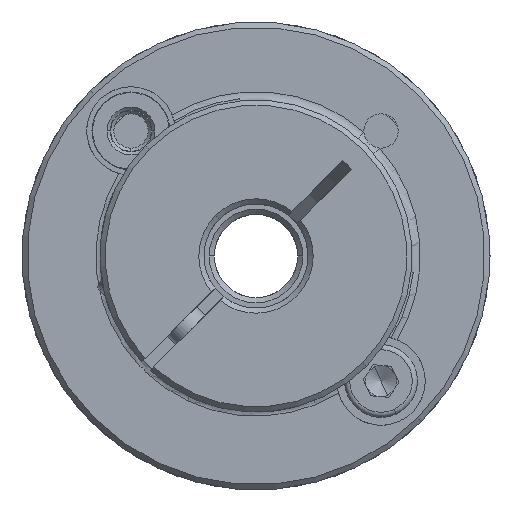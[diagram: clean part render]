
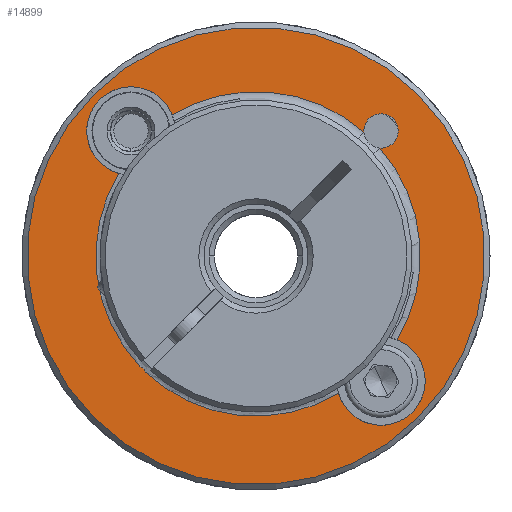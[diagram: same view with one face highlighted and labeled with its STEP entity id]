
A CAD part, front view. The second image highlights one B-rep face of the part: STEP entity #14899.
In plain terms, the highlighted planar face has unit normal (0, -1, 0).
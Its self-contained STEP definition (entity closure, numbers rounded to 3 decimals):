
#112 = CIRCLE ( 'NONE', #10133, 22. ) ;
#169 = EDGE_LOOP ( 'NONE', ( #14059, #2437 ) ) ;
#212 = DIRECTION ( 'NONE',  ( 0., 1., 0. ) ) ;
#235 = VERTEX_POINT ( 'NONE', #9480 ) ;
#535 = AXIS2_PLACEMENT_3D ( 'NONE', #6618, #7748, #8866 ) ;
#650 = CIRCLE ( 'NONE', #4302, 1.65 ) ;
#809 = ORIENTED_EDGE ( 'NONE', *, *, #14279, .T. ) ;
#846 = CARTESIAN_POINT ( 'NONE',  ( -8.911, -12.641, 45. ) ) ;
#885 = ORIENTED_EDGE ( 'NONE', *, *, #1047, .T. ) ;
#943 = AXIS2_PLACEMENT_3D ( 'NONE', #4157, #2841, #3952 ) ;
#1047 = EDGE_CURVE ( 'NONE', #14922, #12846, #5897, .T. ) ;
#1073 = CARTESIAN_POINT ( 'NONE',  ( -8.911, -12.641, 45. ) ) ;
#1151 = CIRCLE ( 'NONE', #7329, 22. ) ;
#1315 = VERTEX_POINT ( 'NONE', #10970 ) ;
#1493 = CIRCLE ( 'NONE', #943, 15.8 ) ;
#1584 = CARTESIAN_POINT ( 'NONE',  ( 6.646, -12.641, 29.444 ) ) ;
#1696 = EDGE_CURVE ( 'NONE', #5183, #5309, #650, .T. ) ;
#1833 = DIRECTION ( 'NONE',  ( -0.707, 0., 0.707 ) ) ;
#1868 = VERTEX_POINT ( 'NONE', #2589 ) ;
#2110 = VERTEX_POINT ( 'NONE', #10477 ) ;
#2239 = EDGE_CURVE ( 'NONE', #9493, #7759, #112, .T. ) ;
#2271 = AXIS2_PLACEMENT_3D ( 'NONE', #14435, #6189, #7568 ) ;
#2296 = AXIS2_PLACEMENT_3D ( 'NONE', #8315, #212, #2542 ) ;
#2437 = ORIENTED_EDGE ( 'NONE', *, *, #14147, .T. ) ;
#2542 = DIRECTION ( 'NONE',  ( -0.707, 0., 0.707 ) ) ;
#2589 = CARTESIAN_POINT ( 'NONE',  ( -20.068, -12.641, 34.385 ) ) ;
#2647 = ORIENTED_EDGE ( 'NONE', *, *, #9417, .T. ) ;
#2800 = AXIS2_PLACEMENT_3D ( 'NONE', #3912, #13254, #14481 ) ;
#2811 = CARTESIAN_POINT ( 'NONE',  ( -0.974, -12.641, 31.803 ) ) ;
#2841 = DIRECTION ( 'NONE',  ( 0., 1., 0. ) ) ;
#2988 = CARTESIAN_POINT ( 'NONE',  ( 3.11, -12.641, 32.979 ) ) ;
#3011 = EDGE_CURVE ( 'NONE', #1868, #3919, #8377, .T. ) ;
#3862 = CIRCLE ( 'NONE', #2296, 4.25 ) ;
#3912 = CARTESIAN_POINT ( 'NONE',  ( 3.11, -12.641, 32.979 ) ) ;
#3919 = VERTEX_POINT ( 'NONE', #9709 ) ;
#3952 = DIRECTION ( 'NONE',  ( -0.707, 0., 0.707 ) ) ;
#4133 = CARTESIAN_POINT ( 'NONE',  ( -8.911, -12.641, 45. ) ) ;
#4157 = CARTESIAN_POINT ( 'NONE',  ( -8.911, -12.641, 45. ) ) ;
#4175 = DIRECTION ( 'NONE',  ( 0., -1., 0. ) ) ;
#4302 = AXIS2_PLACEMENT_3D ( 'NONE', #4752, #4868, #6026 ) ;
#4571 = AXIS2_PLACEMENT_3D ( 'NONE', #1073, #13688, #7990 ) ;
#4585 = ORIENTED_EDGE ( 'NONE', *, *, #4937, .T. ) ;
#4752 = CARTESIAN_POINT ( 'NONE',  ( 3.11, -12.641, 57.021 ) ) ;
#4807 = ORIENTED_EDGE ( 'NONE', *, *, #3011, .T. ) ;
#4868 = DIRECTION ( 'NONE',  ( 0., 1., 0. ) ) ;
#4937 = EDGE_CURVE ( 'NONE', #1315, #5183, #7259, .T. ) ;
#5183 = VERTEX_POINT ( 'NONE', #8898 ) ;
#5251 = CIRCLE ( 'NONE', #10872, 15.8 ) ;
#5309 = VERTEX_POINT ( 'NONE', #14805 ) ;
#5551 = ORIENTED_EDGE ( 'NONE', *, *, #1696, .T. ) ;
#5615 = EDGE_CURVE ( 'NONE', #2110, #1315, #14118, .T. ) ;
#5811 = EDGE_CURVE ( 'NONE', #5309, #12378, #5251, .T. ) ;
#5897 = CIRCLE ( 'NONE', #4571, 15.4 ) ;
#6002 = FACE_OUTER_BOUND ( 'NONE', #169, .T. ) ;
#6026 = DIRECTION ( 'NONE',  ( -0.707, 0., 0.707 ) ) ;
#6143 = B_SPLINE_CURVE_WITH_KNOTS ( 'NONE', 3,
 ( #12869, #14022, #7059, #7014 ),
 .UNSPECIFIED., .F., .F.,
 ( 4, 4 ),
 ( 0., 1. ),
 .UNSPECIFIED. ) ;
#6169 = ORIENTED_EDGE ( 'NONE', *, *, #7361, .T. ) ;
#6189 = DIRECTION ( 'NONE',  ( 0., 1., 0. ) ) ;
#6316 = CARTESIAN_POINT ( 'NONE',  ( -23.937, -12.641, 60.026 ) ) ;
#6354 = DIRECTION ( 'NONE',  ( -0.707, 0., 0.707 ) ) ;
#6618 = CARTESIAN_POINT ( 'NONE',  ( 3.11, -12.641, 57.021 ) ) ;
#6731 = DIRECTION ( 'NONE',  ( 0., 1., 0. ) ) ;
#7014 = CARTESIAN_POINT ( 'NONE',  ( -20.068, -12.641, 34.385 ) ) ;
#7059 = CARTESIAN_POINT ( 'NONE',  ( -19.844, -12.641, 34.248 ) ) ;
#7259 = CIRCLE ( 'NONE', #12005, 1.65 ) ;
#7329 = AXIS2_PLACEMENT_3D ( 'NONE', #846, #4175, #1833 ) ;
#7361 = EDGE_CURVE ( 'NONE', #12846, #1868, #6143, .T. ) ;
#7512 = PLANE ( 'NONE',  #14106 ) ;
#7568 = DIRECTION ( 'NONE',  ( -0.707, 0., 0.707 ) ) ;
#7748 = DIRECTION ( 'NONE',  ( 0., 1., 0. ) ) ;
#7759 = VERTEX_POINT ( 'NONE', #11755 ) ;
#7965 = DIRECTION ( 'NONE',  ( -0.707, 0., 0.707 ) ) ;
#7990 = DIRECTION ( 'NONE',  ( -0.707, 0., 0.707 ) ) ;
#8170 = CARTESIAN_POINT ( 'NONE',  ( 4.674, -12.641, 36.931 ) ) ;
#8281 = ORIENTED_EDGE ( 'NONE', *, *, #5811, .T. ) ;
#8315 = CARTESIAN_POINT ( 'NONE',  ( -20.932, -12.641, 57.021 ) ) ;
#8333 = CARTESIAN_POINT ( 'NONE',  ( -16.98, -12.641, 58.584 ) ) ;
#8335 = DIRECTION ( 'NONE',  ( 0., 1., 0. ) ) ;
#8377 = CIRCLE ( 'NONE', #2271, 15.4 ) ;
#8384 = CIRCLE ( 'NONE', #13047, 4.25 ) ;
#8694 = DIRECTION ( 'NONE',  ( 0., -1., 0. ) ) ;
#8724 = ORIENTED_EDGE ( 'NONE', *, *, #14652, .T. ) ;
#8866 = DIRECTION ( 'NONE',  ( -0.707, 0., 0.707 ) ) ;
#8898 = CARTESIAN_POINT ( 'NONE',  ( 4.277, -12.641, 55.854 ) ) ;
#8937 = CIRCLE ( 'NONE', #2800, 4.25 ) ;
#8997 = VERTEX_POINT ( 'NONE', #8333 ) ;
#9367 = DIRECTION ( 'NONE',  ( -0.707, 0., 0.707 ) ) ;
#9417 = EDGE_CURVE ( 'NONE', #13522, #8997, #3862, .T. ) ;
#9480 = CARTESIAN_POINT ( 'NONE',  ( 6.115, -12.641, 29.974 ) ) ;
#9493 = VERTEX_POINT ( 'NONE', #1584 ) ;
#9554 = CARTESIAN_POINT ( 'NONE',  ( 3.11, -12.641, 57.021 ) ) ;
#9650 = ORIENTED_EDGE ( 'NONE', *, *, #9843, .T. ) ;
#9709 = CARTESIAN_POINT ( 'NONE',  ( -22.108, -12.641, 52.937 ) ) ;
#9843 = EDGE_CURVE ( 'NONE', #12378, #235, #14338, .T. ) ;
#9942 = EDGE_CURVE ( 'NONE', #235, #14922, #8937, .T. ) ;
#9997 = ORIENTED_EDGE ( 'NONE', *, *, #9942, .T. ) ;
#10133 = AXIS2_PLACEMENT_3D ( 'NONE', #13981, #11823, #9367 ) ;
#10136 = EDGE_LOOP ( 'NONE', ( #4807, #809, #2647, #8724, #14762, #4585, #5551, #8281, #9650, #9997, #885, #6169 ) ) ;
#10349 = FACE_BOUND ( 'NONE', #10136, .T. ) ;
#10467 = CARTESIAN_POINT ( 'NONE',  ( -8.911, -12.641, 45. ) ) ;
#10477 = CARTESIAN_POINT ( 'NONE',  ( 1.463, -12.641, 56.917 ) ) ;
#10620 = DIRECTION ( 'NONE',  ( 0., 1., 0. ) ) ;
#10872 = AXIS2_PLACEMENT_3D ( 'NONE', #10467, #8335, #12876 ) ;
#10970 = CARTESIAN_POINT ( 'NONE',  ( 1.943, -12.641, 58.188 ) ) ;
#11485 = CARTESIAN_POINT ( 'NONE',  ( -20.932, -12.641, 57.021 ) ) ;
#11755 = CARTESIAN_POINT ( 'NONE',  ( -24.467, -12.641, 60.556 ) ) ;
#11817 = DIRECTION ( 'NONE',  ( -0.707, 0., 0.707 ) ) ;
#11823 = DIRECTION ( 'NONE',  ( 0., -1., 0. ) ) ;
#12005 = AXIS2_PLACEMENT_3D ( 'NONE', #9554, #10620, #11817 ) ;
#12378 = VERTEX_POINT ( 'NONE', #8170 ) ;
#12846 = VERTEX_POINT ( 'NONE', #13794 ) ;
#12869 = CARTESIAN_POINT ( 'NONE',  ( -19.526, -12.641, 33.843 ) ) ;
#12876 = DIRECTION ( 'NONE',  ( -0.707, 0., 0.707 ) ) ;
#13047 = AXIS2_PLACEMENT_3D ( 'NONE', #11485, #6731, #7965 ) ;
#13254 = DIRECTION ( 'NONE',  ( 0., 1., 0. ) ) ;
#13522 = VERTEX_POINT ( 'NONE', #6316 ) ;
#13688 = DIRECTION ( 'NONE',  ( 0., 1., 0. ) ) ;
#13794 = CARTESIAN_POINT ( 'NONE',  ( -19.526, -12.641, 33.843 ) ) ;
#13981 = CARTESIAN_POINT ( 'NONE',  ( -8.911, -12.641, 45. ) ) ;
#14022 = CARTESIAN_POINT ( 'NONE',  ( -19.663, -12.641, 34.067 ) ) ;
#14059 = ORIENTED_EDGE ( 'NONE', *, *, #2239, .T. ) ;
#14106 = AXIS2_PLACEMENT_3D ( 'NONE', #4133, #8694, #14588 ) ;
#14118 = CIRCLE ( 'NONE', #535, 1.65 ) ;
#14147 = EDGE_CURVE ( 'NONE', #7759, #9493, #1151, .T. ) ;
#14279 = EDGE_CURVE ( 'NONE', #3919, #13522, #8384, .T. ) ;
#14338 = CIRCLE ( 'NONE', #14427, 4.25 ) ;
#14427 = AXIS2_PLACEMENT_3D ( 'NONE', #2988, #14854, #6354 ) ;
#14435 = CARTESIAN_POINT ( 'NONE',  ( -8.911, -12.641, 45. ) ) ;
#14481 = DIRECTION ( 'NONE',  ( -0.707, 0., 0.707 ) ) ;
#14588 = DIRECTION ( 'NONE',  ( -0.707, 0., 0.707 ) ) ;
#14652 = EDGE_CURVE ( 'NONE', #8997, #2110, #1493, .T. ) ;
#14762 = ORIENTED_EDGE ( 'NONE', *, *, #5615, .T. ) ;
#14805 = CARTESIAN_POINT ( 'NONE',  ( 3.006, -12.641, 55.374 ) ) ;
#14854 = DIRECTION ( 'NONE',  ( 0., 1., 0. ) ) ;
#14899 = ADVANCED_FACE ( 'NONE', ( #10349, #6002 ), #7512, .T. ) ;
#14922 = VERTEX_POINT ( 'NONE', #2811 ) ;
